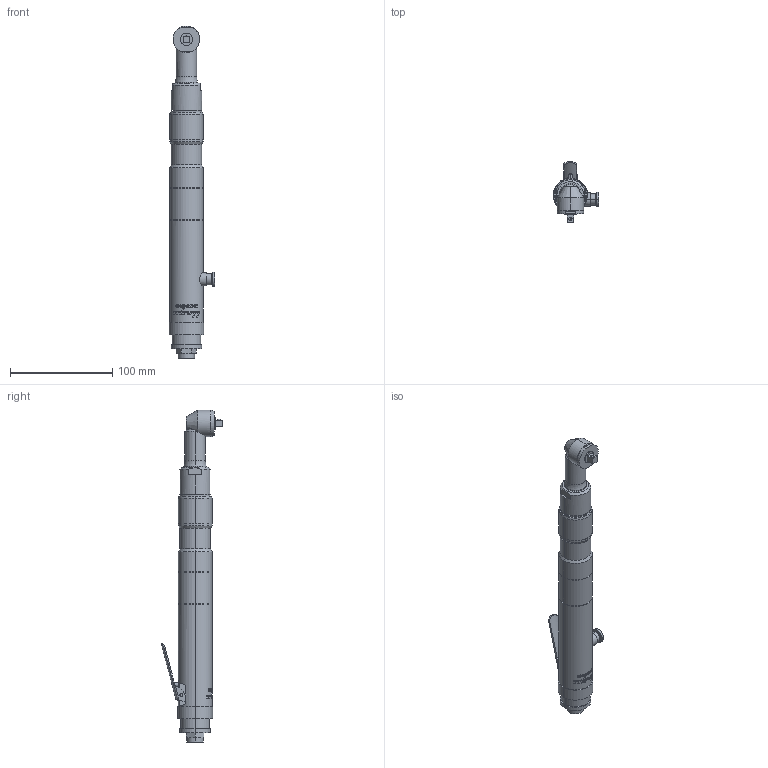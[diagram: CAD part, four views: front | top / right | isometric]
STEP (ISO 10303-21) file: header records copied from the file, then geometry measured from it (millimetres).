
FILE_DESCRIPTION (( 'STEP AP203' ), '1' );
FILE_NAME ('US-LT40-05C(P).STEP', '2006-03-22T04:09:54', ( '' ), ( '' ), 'SwSTEP 2.0', 'SolidWorks 2003240', '' );
FILE_SCHEMA (( 'CONFIG_CONTROL_DESIGN' ));
Length unit declared in the file: millimetre
Products named in the file (9): 4611146_US-LT40-05C(P)_蹬怮椔; 7001071_US-LT40-05C(P)_蹬怮椔; US-LT40-05C(P); 4614308_US-LT40-05C(P)_蹬怮椔; 4614418_US-LT40-05C(P)_蹬怮椔; 4613698_US-LT40-05C(P)_蹬怮椔; 4610256_US-LT40-05C(P)_蹬怮椔; 8930571_US-LT40-05C(P)_蹬怮椔; 9810020_US-LT40-05C(P)_蹬怮椔
Assembly tree (8 placements, depth 2):
  US-LT40-05C(P)
    7001071_US-LT40-05C(P)_蹬怮椔
    8930571_US-LT40-05C(P)_蹬怮椔
    9810020_US-LT40-05C(P)_蹬怮椔
    4611146_US-LT40-05C(P)_蹬怮椔
    4614418_US-LT40-05C(P)_蹬怮椔
    4610256_US-LT40-05C(P)_蹬怮椔
    4613698_US-LT40-05C(P)_蹬怮椔
    4614308_US-LT40-05C(P)_蹬怮椔
Bounding box: 45 x 60.18 x 325 mm (x, y, z)
Volume: 237050.1 mm3; surface area: 41690.4 mm2
Topology: 8 solids, 8 shells, 475 faces, 1201 edges, 787 vertices
Faces by surface type: plane 172, cylinder 160, bspline 115, cone 22, sphere 4, torus 2
Entity records: 22942 total; most frequent: CARTESIAN_POINT 11523, ORIENTED_EDGE 2392, DIRECTION 1804, EDGE_CURVE 1196, VERTEX_POINT 784, AXIS2_PLACEMENT_3D 660, EDGE_LOOP 528, VECTOR 484
